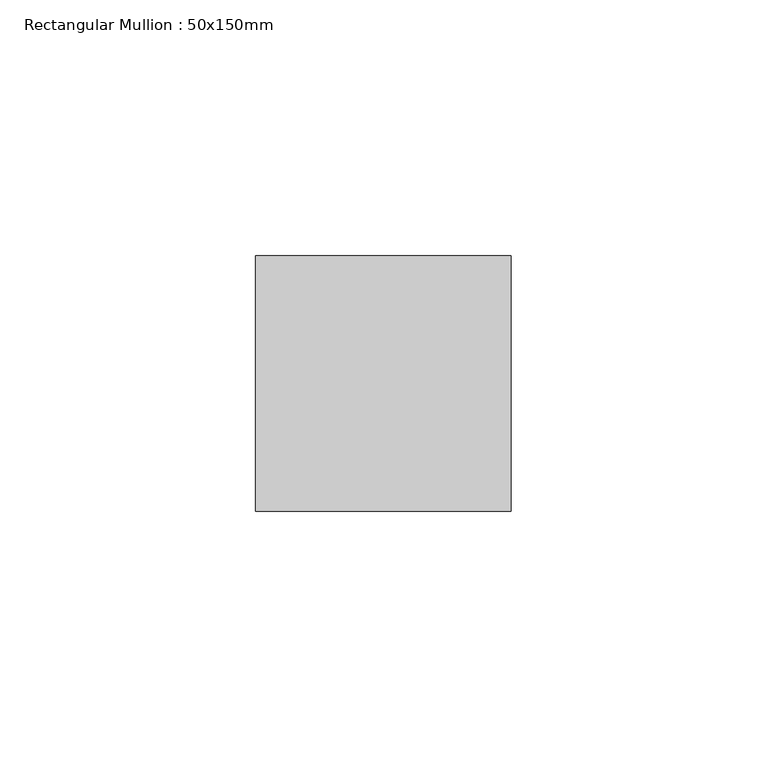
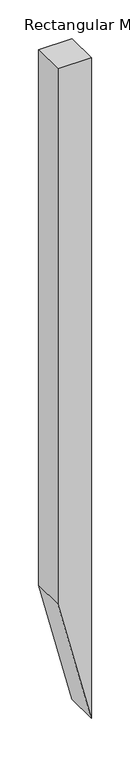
"""IFC4 building model written with IfcOpenShell, lengths in millimetres: member geometry, Rectangular Mullion : 50x150mm."""

import ifcopenshell
import ifcopenshell.guid

model = None  # the IFC model being written
_history = None  # IfcOwnerHistory: only IFC2X3 demands one
_inside = {}  # id of a spatial element -> (the spatial element, [elements in it])
_under = {}  # id of a project, library or spatial element -> (it, [spatial elements below it])
_declared = {}  # id of a project -> (the project, [libraries it declares])
_typed = {}  # id of a type object -> (the type object, [elements of that type])
_made_of = {}  # id of a material, layer set ... -> (it, [elements and type objects made of it])


def new_model(schema):
    """Start an empty IFC model of exactly this schema.

    Asked for "IFC4X3", IfcOpenShell would pick the latest addendum, in which some entities
    have other attributes; the version numbers below select the first issue.
    IFC2X3 requires an IfcOwnerHistory on every rooted entity: one is made here for all.
    """
    global model, _history
    if schema == "IFC4X3":
        model = ifcopenshell.file(schema_version=(4, 3, 0, 0))
    else:
        model = ifcopenshell.file(schema=schema)
    _inside.clear()
    _under.clear()
    _declared.clear()
    _typed.clear()
    _made_of.clear()
    _history = None
    if model.schema == "IFC2X3":
        org = make("IfcOrganization", Name="unknown")
        user = make(
            "IfcPersonAndOrganization",
            ThePerson=make("IfcPerson", FamilyName="unknown"),
            TheOrganization=org,
        )
        app = make(
            "IfcApplication",
            ApplicationDeveloper=org,
            Version="unknown",
            ApplicationFullName="unknown",
            ApplicationIdentifier="unknown",
        )
        _history = make(
            "IfcOwnerHistory",
            OwningUser=user,
            OwningApplication=app,
            ChangeAction="ADDED",
            CreationDate=0,
        )
    return model


def make(cls, **values):
    """One entity of the class cls with the attributes given. An attribute that is None is left unset."""
    return model.create_entity(
        cls, **{name: value for name, value in values.items() if value is not None}
    )


def rooted(cls, **values):
    """An entity with a GlobalId (a new one), such as an element, a storey or a relation."""
    return make(cls, GlobalId=ifcopenshell.guid.new(), OwnerHistory=_history, **values)


def si_unit(unit_type, name, prefix=None):
    """IfcSIUnit, for example si_unit("LENGTHUNIT", "METRE", prefix="MILLI")."""
    return make("IfcSIUnit", UnitType=unit_type, Prefix=prefix, Name=name)


def assignment(units):
    """IfcUnitAssignment: the units of a project."""
    return None if units is None else make("IfcUnitAssignment", Units=units)


def point(xyz):
    """IfcCartesianPoint."""
    return None if xyz is None else make("IfcCartesianPoint", Coordinates=xyz)


def direction(xyz):
    """IfcDirection."""
    return None if xyz is None else make("IfcDirection", DirectionRatios=xyz)


def frame(location, z_axis=None, x_axis=None):
    """IfcAxis2Placement3D, a coordinate frame: its origin and axes. An axis left out is left unset."""
    return make(
        "IfcAxis2Placement3D",
        Location=point(location),
        Axis=direction(z_axis),
        RefDirection=direction(x_axis),
    )


def origin():
    """The frame at (0, 0, 0) with its axes left unset."""
    return frame((0.0, 0.0, 0.0))


def place(relative_to, where):
    """IfcLocalPlacement: puts the frame where relative to a parent placement (None: the world)."""
    return make(
        "IfcLocalPlacement", PlacementRelTo=relative_to, RelativePlacement=where
    )


def context(
    kind, dimensions, precision=None, world=None, true_north=None, identifier=None
):
    """IfcGeometricRepresentationContext, for example the 3D "Model" context."""
    return make(
        "IfcGeometricRepresentationContext",
        ContextIdentifier=identifier,
        ContextType=kind,
        CoordinateSpaceDimension=dimensions,
        Precision=precision,
        WorldCoordinateSystem=world,
        TrueNorth=true_north,
    )


def project(units=None, contexts=None):
    """IfcProject with its units and contexts."""
    return rooted(
        "IfcProject",
        Name="project",
        RepresentationContexts=contexts,
        UnitsInContext=assignment(units),
    )


def spatial(cls, under=None, at=None, **own):
    """A site, building, storey or space (cls), placed at a placement, below another one or the project."""
    s = rooted(cls, ObjectPlacement=at, **own)
    if under is not None:
        _under.setdefault(under.id(), (under, []))[1].append(s)
    return s


def polyline(points):
    """IfcPolyline through the points."""
    return make("IfcPolyline", Points=[point(p) for p in points])


def outline(outer, holes=None, kind="AREA"):
    """IfcArbitraryClosedProfileDef: a profile drawn as a closed curve; with holes, ...WithVoids."""
    if holes is None:
        return make("IfcArbitraryClosedProfileDef", ProfileType=kind, OuterCurve=outer)
    return make(
        "IfcArbitraryProfileDefWithVoids",
        ProfileType=kind,
        OuterCurve=outer,
        InnerCurves=holes,
    )


def extrude(swept, where, along, depth):
    """IfcExtrudedAreaSolid: the profile swept, set in the frame where, extruded along a direction by depth."""
    return make(
        "IfcExtrudedAreaSolid",
        SweptArea=swept,
        Position=where,
        ExtrudedDirection=direction(along),
        Depth=depth,
    )


def shape(context_of_items, identifier, shape_type, items):
    """IfcShapeRepresentation: the items that make up one representation, for example the "Body"."""
    return make(
        "IfcShapeRepresentation",
        ContextOfItems=context_of_items,
        RepresentationIdentifier=identifier,
        RepresentationType=shape_type,
        Items=items,
    )


def source(mapping_origin, context_of_items, identifier, shape_type, items):
    """IfcRepresentationMap: a shape defined once, which mapped items show again and again."""
    return make(
        "IfcRepresentationMap",
        MappingOrigin=mapping_origin,
        MappedRepresentation=shape(context_of_items, identifier, shape_type, items),
    )


def transform(
    local_origin,
    x_axis=None,
    y_axis=None,
    z_axis=None,
    scale=None,
    scale2=None,
    scale3=None,
    uniform=True,
):
    """IfcCartesianTransformationOperator3D, or its non-uniform kind. x_axis, y_axis, z_axis: its Axis1, 2, 3."""
    if uniform:
        return make(
            "IfcCartesianTransformationOperator3D",
            Axis1=direction(x_axis),
            Axis2=direction(y_axis),
            LocalOrigin=point(local_origin),
            Scale=scale,
            Axis3=direction(z_axis),
        )
    return make(
        "IfcCartesianTransformationOperator3DnonUniform",
        Axis1=direction(x_axis),
        Axis2=direction(y_axis),
        LocalOrigin=point(local_origin),
        Scale=scale,
        Axis3=direction(z_axis),
        Scale2=scale2,
        Scale3=scale3,
    )


def mapped(mapping_source, mapping_target):
    """IfcMappedItem: shows the shape of a source again, moved by a transform."""
    return make(
        "IfcMappedItem", MappingSource=mapping_source, MappingTarget=mapping_target
    )


def made_of(thing, what):
    """Note that an element or type object is made of a material, layer set ...; save() writes the relation."""
    if what is not None:
        _made_of.setdefault(what.id(), (what, []))[1].append(thing)
    return thing


def element(
    cls,
    number,
    at=None,
    inside=None,
    cuts=None,
    type_object=None,
    material=None,
    context=None,
    identifier="Body",
    shape_type=None,
    held_by="IfcProductDefinitionShape",
    body=None,
    shapes=None,
    **own,
):
    """One element of the class cls, such as IfcWall. Its Tag is "e" and its number.

    at: its placement. inside: the storey or other place that contains it. cuts: it is an
    opening in that element (IfcRelVoidsElement). A single representation is given by context,
    identifier, shape_type and body (its items); several are given by shapes. held_by: the class
    of the entity that holds the representations. save() writes the other relations.
    """
    e = rooted(cls, Tag="e%d" % number, ObjectPlacement=at, **own)
    if body is not None:
        shapes = [shape(context, identifier, shape_type, body)]
    if shapes is not None:
        e.Representation = make(held_by, Representations=shapes)
    if inside is not None:
        _inside.setdefault(inside.id(), (inside, []))[1].append(e)
    if cuts is not None:
        rooted(
            "IfcRelVoidsElement", RelatingBuildingElement=cuts, RelatedOpeningElement=e
        )
    if type_object is not None:
        _typed.setdefault(type_object.id(), (type_object, []))[1].append(e)
    return made_of(e, material)


def aggregate(whole, parts):
    """IfcRelAggregates: a whole, such as a stair, and the parts it consists of."""
    return rooted("IfcRelAggregates", RelatingObject=whole, RelatedObjects=parts)


def save(model, path):
    """Write the relations noted so far, then the file.

    IfcRelAggregates (storeys below a building ...), IfcRelContainedInSpatialStructure (elements
    in a storey), IfcRelDefinesByType, IfcRelAssociatesMaterial and IfcRelDeclares: one each for
    every whole, place, type object, material and project.
    """
    for whole, parts in _under.values():
        aggregate(whole, parts)
    for where, things in _inside.values():
        rooted(
            "IfcRelContainedInSpatialStructure",
            RelatedElements=things,
            RelatingStructure=where,
        )
    for kind, things in _typed.values():
        rooted("IfcRelDefinesByType", RelatedObjects=things, RelatingType=kind)
    for what, things in _made_of.values():
        rooted("IfcRelAssociatesMaterial", RelatedObjects=things, RelatingMaterial=what)
    for by, libraries in _declared.values():
        rooted("IfcRelDeclares", RelatingContext=by, RelatedDefinitions=libraries)
    model.write(path)


def rectangular_mullion_50x150mm_49fdc678(model_context):
    return source(origin(), model_context, "Body", "SweptSolid", [
        extrude(outline(polyline([(0.0, 0.0), (0.0, -50.0), (-845.0067486, -50.0), (-1041.9805543, 0.0), (0.0, 0.0)])), frame((0.0, -25.0, 0.0), z_axis=(0.0, 1.0, 0.0), x_axis=(0.0, 0.0, 1.0)), (0.0, 0.0, 1.0), 50.0),
    ])


if __name__ == "__main__":
    model = new_model("IFC4")
    model_context = context("Model", 3, world=origin())
    ifc_project = project(units=[si_unit("LENGTHUNIT", "METRE", prefix="MILLI")], contexts=[model_context])
    site = spatial("IfcSite", under=ifc_project)
    building = spatial("IfcBuilding", under=site)
    placement = place(None, origin())
    rectangular_mullion_50x150mm_shape = rectangular_mullion_50x150mm_49fdc678(model_context)
    element("IfcMember", 1, ObjectType="Rectangular Mullion : 50x150mm", at=placement, inside=building, context=model_context, shape_type="MappedRepresentation", body=[
        mapped(rectangular_mullion_50x150mm_shape, transform((0.0, 0.0, 0.0), x_axis=(1.0, 0.0, 0.0), y_axis=(0.0, 1.0, 0.0), z_axis=(0.0, 0.0, 1.0))),
    ])
    save(model, "model.ifc")
